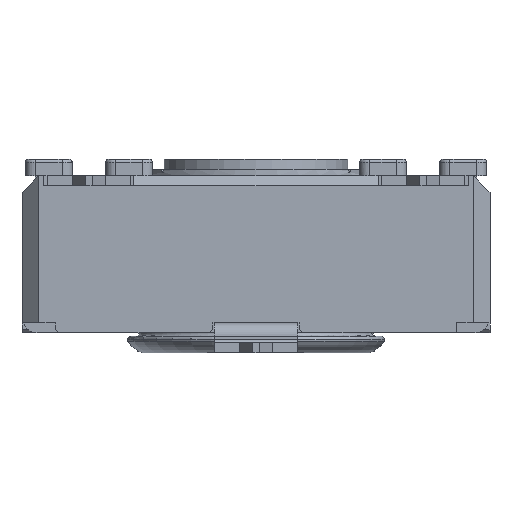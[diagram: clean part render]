
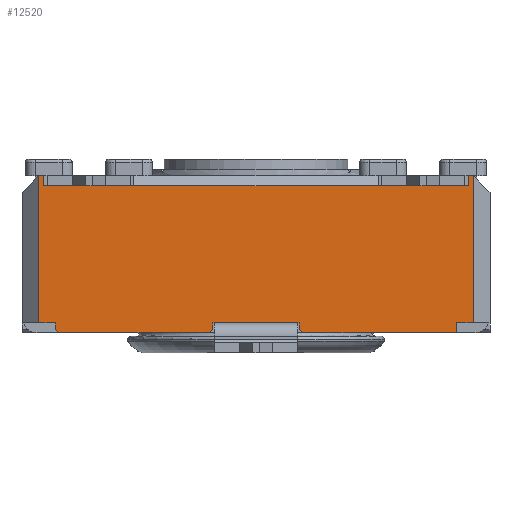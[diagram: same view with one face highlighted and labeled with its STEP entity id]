
A CAD part, front view. The second image highlights one B-rep face of the part: STEP entity #12520.
In plain terms, the highlighted planar face has unit normal (0, -1, 0).
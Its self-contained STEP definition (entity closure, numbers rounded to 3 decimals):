
#652=FACE_OUTER_BOUND('',#1319,.T.);
#1319=EDGE_LOOP('',(#8323,#8324,#8325,#8326,#8327,#8328,#8329,#8330,#8331,
#8332,#8333,#8334,#8335,#8336,#8337,#8338,#8339,#8340,#8341,#8342,#8343,
#8344,#8345,#8346,#8347,#8348,#8349));
#2031=LINE('',#17870,#3512);
#2043=LINE('',#17902,#3524);
#2048=LINE('',#17912,#3529);
#2106=LINE('',#18031,#3587);
#2111=LINE('',#18040,#3592);
#2145=LINE('',#18128,#3626);
#2146=LINE('',#18130,#3627);
#2147=LINE('',#18132,#3628);
#2148=LINE('',#18133,#3629);
#2149=LINE('',#18135,#3630);
#2150=LINE('',#18137,#3631);
#2151=LINE('',#18139,#3632);
#2152=LINE('',#18141,#3633);
#2153=LINE('',#18142,#3634);
#2154=LINE('',#18144,#3635);
#2155=LINE('',#18146,#3636);
#2156=LINE('',#18148,#3637);
#2157=LINE('',#18150,#3638);
#2158=LINE('',#18152,#3639);
#2159=LINE('',#18154,#3640);
#2160=LINE('',#18156,#3641);
#2161=LINE('',#18158,#3642);
#2162=LINE('',#18160,#3643);
#2163=LINE('',#18161,#3644);
#2164=LINE('',#18163,#3645);
#2165=LINE('',#18165,#3646);
#2166=LINE('',#18166,#3647);
#3512=VECTOR('',#14328,10.);
#3524=VECTOR('',#14364,10.);
#3529=VECTOR('',#14369,10.);
#3587=VECTOR('',#14441,10.);
#3592=VECTOR('',#14450,10.);
#3626=VECTOR('',#14522,10.);
#3627=VECTOR('',#14523,10.);
#3628=VECTOR('',#14524,10.);
#3629=VECTOR('',#14525,10.);
#3630=VECTOR('',#14526,10.);
#3631=VECTOR('',#14527,10.);
#3632=VECTOR('',#14528,10.);
#3633=VECTOR('',#14529,10.);
#3634=VECTOR('',#14530,10.);
#3635=VECTOR('',#14531,10.);
#3636=VECTOR('',#14532,10.);
#3637=VECTOR('',#14533,10.);
#3638=VECTOR('',#14534,10.);
#3639=VECTOR('',#14535,10.);
#3640=VECTOR('',#14536,10.);
#3641=VECTOR('',#14537,10.);
#3642=VECTOR('',#14538,10.);
#3643=VECTOR('',#14539,10.);
#3644=VECTOR('',#14540,10.);
#3645=VECTOR('',#14541,10.);
#3646=VECTOR('',#14542,10.);
#3647=VECTOR('',#14543,10.);
#4975=VERTEX_POINT('',#17849);
#4983=VERTEX_POINT('',#17869);
#4991=VERTEX_POINT('',#17901);
#4995=VERTEX_POINT('',#17909);
#4996=VERTEX_POINT('',#17911);
#5049=VERTEX_POINT('',#18028);
#5050=VERTEX_POINT('',#18030);
#5051=VERTEX_POINT('',#18037);
#5052=VERTEX_POINT('',#18039);
#5087=VERTEX_POINT('',#18127);
#5088=VERTEX_POINT('',#18129);
#5089=VERTEX_POINT('',#18131);
#5090=VERTEX_POINT('',#18134);
#5091=VERTEX_POINT('',#18136);
#5092=VERTEX_POINT('',#18138);
#5093=VERTEX_POINT('',#18140);
#5094=VERTEX_POINT('',#18143);
#5095=VERTEX_POINT('',#18145);
#5096=VERTEX_POINT('',#18147);
#5097=VERTEX_POINT('',#18149);
#5098=VERTEX_POINT('',#18151);
#5099=VERTEX_POINT('',#18153);
#5100=VERTEX_POINT('',#18155);
#5101=VERTEX_POINT('',#18157);
#5102=VERTEX_POINT('',#18159);
#5103=VERTEX_POINT('',#18162);
#5104=VERTEX_POINT('',#18164);
#6215=EDGE_CURVE('',#4975,#4983,#2031,.T.);
#6231=EDGE_CURVE('',#4991,#4975,#2043,.T.);
#6236=EDGE_CURVE('',#4996,#4995,#2048,.T.);
#6296=EDGE_CURVE('',#5050,#5049,#2106,.T.);
#6301=EDGE_CURVE('',#5052,#5051,#2111,.T.);
#6345=EDGE_CURVE('',#5049,#5087,#2145,.T.);
#6346=EDGE_CURVE('',#5087,#5088,#2146,.T.);
#6347=EDGE_CURVE('',#5088,#5089,#2147,.T.);
#6348=EDGE_CURVE('',#4996,#5089,#2148,.T.);
#6349=EDGE_CURVE('',#4995,#5090,#2149,.T.);
#6350=EDGE_CURVE('',#5091,#5090,#2150,.T.);
#6351=EDGE_CURVE('',#5091,#5092,#2151,.T.);
#6352=EDGE_CURVE('',#5093,#5092,#2152,.T.);
#6353=EDGE_CURVE('',#4991,#5093,#2153,.T.);
#6354=EDGE_CURVE('',#4983,#5094,#2154,.T.);
#6355=EDGE_CURVE('',#5094,#5095,#2155,.T.);
#6356=EDGE_CURVE('',#5096,#5095,#2156,.T.);
#6357=EDGE_CURVE('',#5096,#5097,#2157,.T.);
#6358=EDGE_CURVE('',#5097,#5098,#2158,.T.);
#6359=EDGE_CURVE('',#5098,#5099,#2159,.T.);
#6360=EDGE_CURVE('',#5100,#5099,#2160,.T.);
#6361=EDGE_CURVE('',#5100,#5101,#2161,.T.);
#6362=EDGE_CURVE('',#5101,#5102,#2162,.T.);
#6363=EDGE_CURVE('',#5102,#5052,#2163,.T.);
#6364=EDGE_CURVE('',#5051,#5103,#2164,.T.);
#6365=EDGE_CURVE('',#5104,#5103,#2165,.T.);
#6366=EDGE_CURVE('',#5104,#5050,#2166,.T.);
#8323=ORIENTED_EDGE('',*,*,#6296,.T.);
#8324=ORIENTED_EDGE('',*,*,#6345,.T.);
#8325=ORIENTED_EDGE('',*,*,#6346,.T.);
#8326=ORIENTED_EDGE('',*,*,#6347,.T.);
#8327=ORIENTED_EDGE('',*,*,#6348,.F.);
#8328=ORIENTED_EDGE('',*,*,#6236,.T.);
#8329=ORIENTED_EDGE('',*,*,#6349,.T.);
#8330=ORIENTED_EDGE('',*,*,#6350,.F.);
#8331=ORIENTED_EDGE('',*,*,#6351,.T.);
#8332=ORIENTED_EDGE('',*,*,#6352,.F.);
#8333=ORIENTED_EDGE('',*,*,#6353,.F.);
#8334=ORIENTED_EDGE('',*,*,#6231,.T.);
#8335=ORIENTED_EDGE('',*,*,#6215,.T.);
#8336=ORIENTED_EDGE('',*,*,#6354,.T.);
#8337=ORIENTED_EDGE('',*,*,#6355,.T.);
#8338=ORIENTED_EDGE('',*,*,#6356,.F.);
#8339=ORIENTED_EDGE('',*,*,#6357,.T.);
#8340=ORIENTED_EDGE('',*,*,#6358,.T.);
#8341=ORIENTED_EDGE('',*,*,#6359,.T.);
#8342=ORIENTED_EDGE('',*,*,#6360,.F.);
#8343=ORIENTED_EDGE('',*,*,#6361,.T.);
#8344=ORIENTED_EDGE('',*,*,#6362,.T.);
#8345=ORIENTED_EDGE('',*,*,#6363,.T.);
#8346=ORIENTED_EDGE('',*,*,#6301,.T.);
#8347=ORIENTED_EDGE('',*,*,#6364,.T.);
#8348=ORIENTED_EDGE('',*,*,#6365,.F.);
#8349=ORIENTED_EDGE('',*,*,#6366,.T.);
#11809=PLANE('',#13233);
#12520=ADVANCED_FACE('',(#652),#11809,.T.);
#13233=AXIS2_PLACEMENT_3D('',#18126,#14520,#14521);
#14328=DIRECTION('',(1.,0.,0.));
#14364=DIRECTION('',(1.,0.,0.));
#14369=DIRECTION('',(1.,0.,0.));
#14441=DIRECTION('',(-1.,0.,0.));
#14450=DIRECTION('',(-1.,0.,0.));
#14520=DIRECTION('center_axis',(0.,-1.,0.));
#14521=DIRECTION('ref_axis',(0.,0.,-1.));
#14522=DIRECTION('',(-1.,0.,0.));
#14523=DIRECTION('',(0.,0.,1.));
#14524=DIRECTION('',(-1.,0.,0.));
#14525=DIRECTION('',(0.,0.,1.));
#14526=DIRECTION('',(0.,0.,-1.));
#14527=DIRECTION('',(-0.707,0.,0.707));
#14528=DIRECTION('',(1.,0.,0.));
#14529=DIRECTION('',(-0.707,0.,-0.707));
#14530=DIRECTION('',(0.,0.,-1.));
#14531=DIRECTION('',(1.,0.,0.));
#14532=DIRECTION('',(0.,0.,-1.));
#14533=DIRECTION('',(-0.707,0.,0.707));
#14534=DIRECTION('',(1.,0.,0.));
#14535=DIRECTION('',(0.,0.,1.));
#14536=DIRECTION('',(1.,0.,0.));
#14537=DIRECTION('',(0.,0.,-1.));
#14538=DIRECTION('',(-1.,0.,0.));
#14539=DIRECTION('',(0.,0.,-1.));
#14540=DIRECTION('',(-1.,0.,0.));
#14541=DIRECTION('',(-1.,0.,0.));
#14542=DIRECTION('',(1.,0.,0.));
#14543=DIRECTION('',(-1.,0.,0.));
#17849=CARTESIAN_POINT('',(-8.717,-9.898,0.));
#17869=CARTESIAN_POINT('',(-6.217,-9.898,0.));
#17870=CARTESIAN_POINT('',(-14.467,-9.898,0.));
#17901=CARTESIAN_POINT('',(-8.767,-9.898,0.));
#17902=CARTESIAN_POINT('',(-14.467,-9.898,0.));
#17909=CARTESIAN_POINT('',(-13.467,-9.898,0.));
#17911=CARTESIAN_POINT('',(-13.967,-9.898,0.));
#17912=CARTESIAN_POINT('',(-7.245,-9.898,0.));
#18028=CARTESIAN_POINT('',(-13.717,-9.898,4.1));
#18030=CARTESIAN_POINT('',(-11.217,-9.898,4.1));
#18031=CARTESIAN_POINT('',(-6.467,-9.898,4.1));
#18037=CARTESIAN_POINT('',(-3.717,-9.898,4.1));
#18039=CARTESIAN_POINT('',(-1.217,-9.898,4.1));
#18040=CARTESIAN_POINT('',(-1.467,-9.898,4.1));
#18126=CARTESIAN_POINT('Origin',(-0.467,-9.898,0.));
#18127=CARTESIAN_POINT('',(-13.817,-9.898,4.1));
#18128=CARTESIAN_POINT('',(-3.944,-9.898,4.1));
#18129=CARTESIAN_POINT('',(-13.817,-9.898,4.4));
#18130=CARTESIAN_POINT('',(-13.817,-9.898,2.2));
#18131=CARTESIAN_POINT('',(-13.967,-9.898,4.4));
#18132=CARTESIAN_POINT('',(-14.467,-9.898,4.4));
#18133=CARTESIAN_POINT('',(-13.967,-9.898,0.));
#18134=CARTESIAN_POINT('',(-13.467,-9.898,-0.2));
#18135=CARTESIAN_POINT('',(-13.467,-9.898,-0.15));
#18136=CARTESIAN_POINT('',(-13.367,-9.898,-0.3));
#18137=CARTESIAN_POINT('',(-10.242,-9.898,-3.425));
#18138=CARTESIAN_POINT('',(-8.867,-9.898,-0.3));
#18139=CARTESIAN_POINT('',(-0.467,-9.898,-0.3));
#18140=CARTESIAN_POINT('',(-8.767,-9.898,-0.2));
#18141=CARTESIAN_POINT('',(-6.667,-9.898,1.9));
#18142=CARTESIAN_POINT('',(-8.767,-9.898,0.));
#18143=CARTESIAN_POINT('',(-6.167,-9.898,0.));
#18144=CARTESIAN_POINT('',(-14.467,-9.898,0.));
#18145=CARTESIAN_POINT('',(-6.167,-9.898,-0.2));
#18146=CARTESIAN_POINT('',(-6.167,-9.898,0.));
#18147=CARTESIAN_POINT('',(-6.067,-9.898,-0.3));
#18148=CARTESIAN_POINT('',(-4.767,-9.898,-1.6));
#18149=CARTESIAN_POINT('',(-1.467,-9.898,-0.3));
#18150=CARTESIAN_POINT('',(-0.467,-9.898,-0.3));
#18151=CARTESIAN_POINT('',(-1.467,-9.898,0.));
#18152=CARTESIAN_POINT('',(-1.467,-9.898,-0.15));
#18153=CARTESIAN_POINT('',(-0.967,-9.898,0.));
#18154=CARTESIAN_POINT('',(-0.646,-9.898,0.));
#18155=CARTESIAN_POINT('',(-0.967,-9.898,4.4));
#18156=CARTESIAN_POINT('',(-0.967,-9.898,0.));
#18157=CARTESIAN_POINT('',(-1.117,-9.898,4.4));
#18158=CARTESIAN_POINT('',(-14.467,-9.898,4.4));
#18159=CARTESIAN_POINT('',(-1.117,-9.898,4.1));
#18160=CARTESIAN_POINT('',(-1.117,-9.898,2.2));
#18161=CARTESIAN_POINT('',(-1.862,-9.898,4.1));
#18162=CARTESIAN_POINT('',(-3.817,-9.898,4.1));
#18163=CARTESIAN_POINT('',(-1.862,-9.898,4.1));
#18164=CARTESIAN_POINT('',(-11.117,-9.898,4.1));
#18165=CARTESIAN_POINT('',(-3.967,-9.898,4.1));
#18166=CARTESIAN_POINT('',(-3.944,-9.898,4.1));
